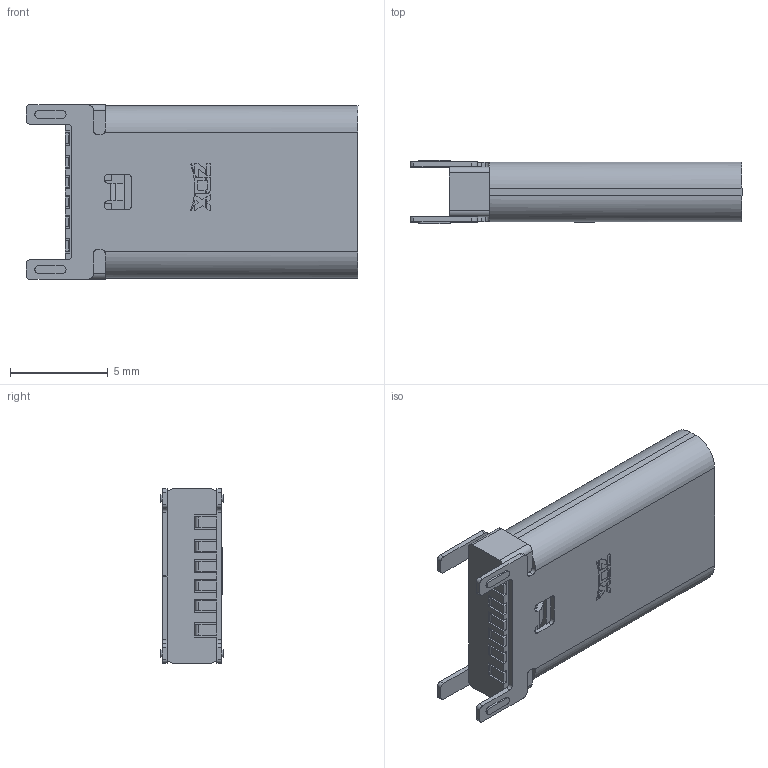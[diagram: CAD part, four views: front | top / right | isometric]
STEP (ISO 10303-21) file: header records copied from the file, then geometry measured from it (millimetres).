
FILE_DESCRIPTION((''),'2;1');
FILE_NAME('66','2024-01-30T',('Administrator'),(''),'PRO/ENGINEER BY PARAMETRIC TECHNOLOGY CORPORATION, 2013040','PRO/ENGINEER BY PARAMETRIC TECHNOLOGY CORPORATION, 2013040','');
FILE_SCHEMA(('CONFIG_CONTROL_DESIGN','SHAPE_APPEARANCE_LAYERS_GROUPS'));
Length unit declared in the file: millimetre
Products named in the file (1): 66
Bounding box: 17 x 3.26 x 8.94 mm (x, y, z)
Volume: 294.2 mm3; surface area: 716.3 mm2
Topology: 1 solids, 30 shells, 644 faces, 1847 edges, 1254 vertices
Faces by surface type: plane 445, cylinder 187, cone 8, bspline 4
Entity records: 21234 total; most frequent: CARTESIAN_POINT 4402, ORIENTED_EDGE 3454, DIRECTION 3343, EDGE_CURVE 1847, VECTOR 1387, LINE 1387, VERTEX_POINT 1254, AXIS2_PLACEMENT_3D 978
